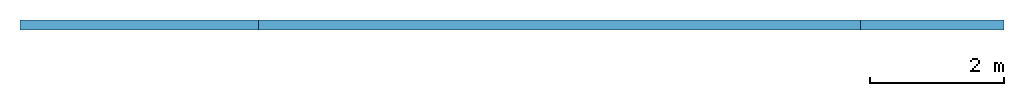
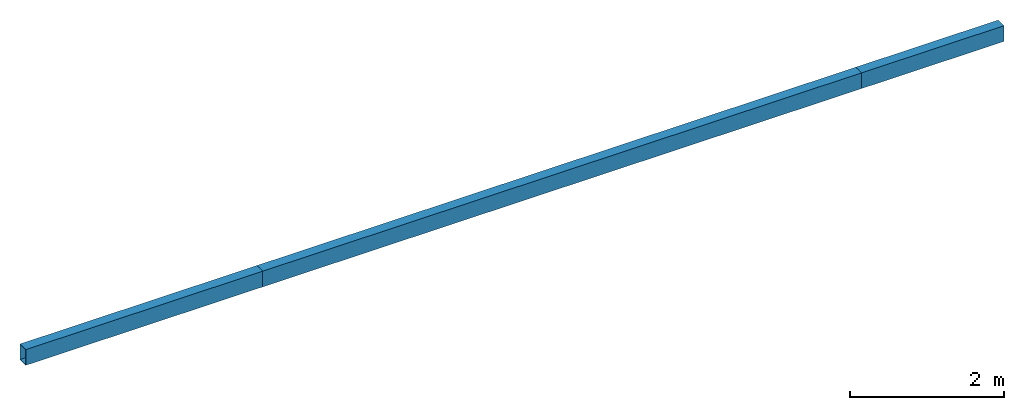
# One storey: 3 beams.
"""IFC2X3 building model written with IfcOpenShell, lengths in millimetres."""

import ifcopenshell
import ifcopenshell.guid

model = None  # the IFC model being written
_history = None  # IfcOwnerHistory: only IFC2X3 demands one
_inside = {}  # id of a spatial element -> (the spatial element, [elements in it])
_under = {}  # id of a project, library or spatial element -> (it, [spatial elements below it])
_declared = {}  # id of a project -> (the project, [libraries it declares])
_typed = {}  # id of a type object -> (the type object, [elements of that type])
_made_of = {}  # id of a material, layer set ... -> (it, [elements and type objects made of it])


def new_model(schema):
    """Start an empty IFC model of exactly this schema.

    Asked for "IFC4X3", IfcOpenShell would pick the latest addendum, in which some entities
    have other attributes; the version numbers below select the first issue.
    IFC2X3 requires an IfcOwnerHistory on every rooted entity: one is made here for all.
    """
    global model, _history
    if schema == "IFC4X3":
        model = ifcopenshell.file(schema_version=(4, 3, 0, 0))
    else:
        model = ifcopenshell.file(schema=schema)
    _inside.clear()
    _under.clear()
    _declared.clear()
    _typed.clear()
    _made_of.clear()
    _history = None
    if model.schema == "IFC2X3":
        org = make("IfcOrganization", Name="unknown")
        user = make(
            "IfcPersonAndOrganization",
            ThePerson=make("IfcPerson", FamilyName="unknown"),
            TheOrganization=org,
        )
        app = make(
            "IfcApplication",
            ApplicationDeveloper=org,
            Version="unknown",
            ApplicationFullName="unknown",
            ApplicationIdentifier="unknown",
        )
        _history = make(
            "IfcOwnerHistory",
            OwningUser=user,
            OwningApplication=app,
            ChangeAction="ADDED",
            CreationDate=0,
        )
    return model


def make(cls, **values):
    """One entity of the class cls with the attributes given. An attribute that is None is left unset."""
    return model.create_entity(
        cls, **{name: value for name, value in values.items() if value is not None}
    )


def entity(cls, *values):
    """Any entity or typed value of the class cls, its attributes in the order of the schema. None: left unset."""
    e = model.create_entity(cls)
    for i, value in enumerate(values):
        if value is not None:
            e[i] = value
    return e


def rooted(cls, **values):
    """An entity with a GlobalId (a new one), such as an element, a storey or a relation."""
    return make(cls, GlobalId=ifcopenshell.guid.new(), OwnerHistory=_history, **values)


def si_unit(unit_type, name, prefix=None):
    """IfcSIUnit, for example si_unit("LENGTHUNIT", "METRE", prefix="MILLI")."""
    return make("IfcSIUnit", UnitType=unit_type, Prefix=prefix, Name=name)


def converted_unit(unit_type, name, factor, base, dimensions=None, offset=None):
    """IfcConversionBasedUnit, such as the inch: factor (a typed value) times the base unit."""
    return make(
        "IfcConversionBasedUnit"
        if offset is None
        else "IfcConversionBasedUnitWithOffset",
        ConversionOffset=offset,
        Dimensions=None
        if dimensions is None
        else entity("IfcDimensionalExponents", *dimensions),
        UnitType=unit_type,
        Name=name,
        ConversionFactor=make(
            "IfcMeasureWithUnit", ValueComponent=factor, UnitComponent=base
        ),
    )


def derived_unit(unit_type, elements):
    """IfcDerivedUnit: a product of units, each with its exponent."""
    return make(
        "IfcDerivedUnit",
        Elements=[
            make("IfcDerivedUnitElement", Unit=unit, Exponent=power)
            for unit, power in elements
        ],
        UnitType=unit_type,
    )


def assignment(units):
    """IfcUnitAssignment: the units of a project."""
    return None if units is None else make("IfcUnitAssignment", Units=units)


def point(xyz):
    """IfcCartesianPoint."""
    return None if xyz is None else make("IfcCartesianPoint", Coordinates=xyz)


def direction(xyz):
    """IfcDirection."""
    return None if xyz is None else make("IfcDirection", DirectionRatios=xyz)


def frame(location, z_axis=None, x_axis=None):
    """IfcAxis2Placement3D, a coordinate frame: its origin and axes. An axis left out is left unset."""
    return make(
        "IfcAxis2Placement3D",
        Location=point(location),
        Axis=direction(z_axis),
        RefDirection=direction(x_axis),
    )


def origin_with_axes():
    """The frame at (0, 0, 0) with the z axis (0, 0, 1) and the x axis (1, 0, 0) written out."""
    return frame((0.0, 0.0, 0.0), z_axis=(0.0, 0.0, 1.0), x_axis=(1.0, 0.0, 0.0))


def place(relative_to, where):
    """IfcLocalPlacement: puts the frame where relative to a parent placement (None: the world)."""
    return make(
        "IfcLocalPlacement", PlacementRelTo=relative_to, RelativePlacement=where
    )


def context(
    kind, dimensions, precision=None, world=None, true_north=None, identifier=None
):
    """IfcGeometricRepresentationContext, for example the 3D "Model" context."""
    return make(
        "IfcGeometricRepresentationContext",
        ContextIdentifier=identifier,
        ContextType=kind,
        CoordinateSpaceDimension=dimensions,
        Precision=precision,
        WorldCoordinateSystem=world,
        TrueNorth=true_north,
    )


def subcontext(parent, identifier, kind, view, scale=None):
    """IfcGeometricRepresentationSubContext, for example "Body" below "Model"."""
    return make(
        "IfcGeometricRepresentationSubContext",
        ContextIdentifier=identifier,
        ContextType=kind,
        ParentContext=parent,
        TargetScale=scale,
        TargetView=view,
    )


def project(units=None, contexts=None):
    """IfcProject with its units and contexts."""
    return rooted(
        "IfcProject",
        Name="project",
        RepresentationContexts=contexts,
        UnitsInContext=assignment(units),
    )


def spatial(cls, under=None, at=None, **own):
    """A site, building, storey or space (cls), placed at a placement, below another one or the project."""
    s = rooted(cls, ObjectPlacement=at, **own)
    if under is not None:
        _under.setdefault(under.id(), (under, []))[1].append(s)
    return s


def faces_of(points, faces, orient=None, outer=None):
    """IfcFace entities. A face is a list of loops; a loop is a list of indices into points, from 0.

    orient and outer hold one flag for each loop. By default every Orientation is true, the
    first loop of a face is its IfcFaceOuterBound and the others are IfcFaceBound.
    """
    made = []
    for i, loops in enumerate(faces):
        bounds = []
        for j, loop in enumerate(loops):
            is_outer = j == 0 if outer is None else outer[i][j]
            bounds.append(
                make(
                    "IfcFaceOuterBound" if is_outer else "IfcFaceBound",
                    Bound=make("IfcPolyLoop", Polygon=[points[k] for k in loop]),
                    Orientation=True if orient is None else orient[i][j],
                )
            )
        made.append(make("IfcFace", Bounds=bounds))
    return made


def faceted_brep(points, faces, orient=None, outer=None, voids=None):
    """IfcFacetedBrep: a solid bounded by flat faces; with voids (closed shells), ...WithVoids."""
    shared = [point(p) for p in points]
    hull = make("IfcClosedShell", CfsFaces=faces_of(shared, faces, orient, outer))
    if voids is None:
        return make("IfcFacetedBrep", Outer=hull)
    return make(
        "IfcFacetedBrepWithVoids",
        Outer=hull,
        Voids=[
            make(cls, CfsFaces=faces_of(shared, fs, o, b)) for cls, fs, o, b in voids
        ],
    )


def shape(context_of_items, identifier, shape_type, items):
    """IfcShapeRepresentation: the items that make up one representation, for example the "Body"."""
    return make(
        "IfcShapeRepresentation",
        ContextOfItems=context_of_items,
        RepresentationIdentifier=identifier,
        RepresentationType=shape_type,
        Items=items,
    )


def material(Name=None, Category=None):
    """IfcMaterial."""
    return make("IfcMaterial", Name=Name, Category=Category)


def made_of(thing, what):
    """Note that an element or type object is made of a material, layer set ...; save() writes the relation."""
    if what is not None:
        _made_of.setdefault(what.id(), (what, []))[1].append(thing)
    return thing


def type_object(cls, material=None, **own):
    """A type object (cls), such as IfcWallType, which elements share."""
    return made_of(rooted(cls, **own), material)


def element(
    cls,
    number,
    at=None,
    inside=None,
    cuts=None,
    type_object=None,
    material=None,
    context=None,
    identifier="Body",
    shape_type=None,
    held_by="IfcProductDefinitionShape",
    body=None,
    shapes=None,
    **own,
):
    """One element of the class cls, such as IfcWall. Its Tag is "e" and its number.

    at: its placement. inside: the storey or other place that contains it. cuts: it is an
    opening in that element (IfcRelVoidsElement). A single representation is given by context,
    identifier, shape_type and body (its items); several are given by shapes. held_by: the class
    of the entity that holds the representations. save() writes the other relations.
    """
    e = rooted(cls, Tag="e%d" % number, ObjectPlacement=at, **own)
    if body is not None:
        shapes = [shape(context, identifier, shape_type, body)]
    if shapes is not None:
        e.Representation = make(held_by, Representations=shapes)
    if inside is not None:
        _inside.setdefault(inside.id(), (inside, []))[1].append(e)
    if cuts is not None:
        rooted(
            "IfcRelVoidsElement", RelatingBuildingElement=cuts, RelatedOpeningElement=e
        )
    if type_object is not None:
        _typed.setdefault(type_object.id(), (type_object, []))[1].append(e)
    return made_of(e, material)


def aggregate(whole, parts):
    """IfcRelAggregates: a whole, such as a stair, and the parts it consists of."""
    return rooted("IfcRelAggregates", RelatingObject=whole, RelatedObjects=parts)


def save(model, path):
    """Write the relations noted so far, then the file.

    IfcRelAggregates (storeys below a building ...), IfcRelContainedInSpatialStructure (elements
    in a storey), IfcRelDefinesByType, IfcRelAssociatesMaterial and IfcRelDeclares: one each for
    every whole, place, type object, material and project.
    """
    for whole, parts in _under.values():
        aggregate(whole, parts)
    for where, things in _inside.values():
        rooted(
            "IfcRelContainedInSpatialStructure",
            RelatedElements=things,
            RelatingStructure=where,
        )
    for kind, things in _typed.values():
        rooted("IfcRelDefinesByType", RelatedObjects=things, RelatingType=kind)
    for what, things in _made_of.values():
        rooted("IfcRelAssociatesMaterial", RelatedObjects=things, RelatingMaterial=what)
    for by, libraries in _declared.values():
        rooted("IfcRelDeclares", RelatingContext=by, RelatedDefinitions=libraries)
    model.write(path)


model = new_model("IFC2X3")

# Units and contexts
model_context = context("Model", 3, precision=0.01, world=frame((0.0, 4.29681676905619e-09, 0.0)), true_north=direction((4.01073788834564e-13, 1.0)))
plan_context = context("Plan", 3, precision=0.01, world=frame((0.0, 4.29681676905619e-09, 0.0)), true_north=direction((4.01073788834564e-13, 1.0)))
body_context = subcontext(model_context, "Body", "Model", "MODEL_VIEW")
ifc_project = project(units=[converted_unit("PLANEANGLEUNIT", "DEGREE", entity("IfcPositiveLengthMeasure", 0.0174532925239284), si_unit("PLANEANGLEUNIT", "RADIAN"), dimensions=[0, 0, 0, 0, 0, 0, 0]), si_unit("AREAUNIT", "SQUARE_METRE"), si_unit("LENGTHUNIT", "METRE", prefix="MILLI"), si_unit("MASSUNIT", "GRAM", prefix="KILO"), si_unit("POWERUNIT", "WATT"), si_unit("PRESSUREUNIT", "PASCAL", prefix="KILO"), si_unit("FORCEUNIT", "NEWTON", prefix="KILO"), si_unit("ELECTRICVOLTAGEUNIT", "VOLT"), si_unit("ELECTRICCURRENTUNIT", "AMPERE"), si_unit("THERMODYNAMICTEMPERATUREUNIT", "DEGREE_CELSIUS"), si_unit("TIMEUNIT", "SECOND"), si_unit("VOLUMEUNIT", "CUBIC_METRE"), derived_unit("LINEARVELOCITYUNIT", [(si_unit("LENGTHUNIT", "METRE"), 1), (si_unit("TIMEUNIT", "SECOND"), -1)]), derived_unit("VOLUMETRICFLOWRATEUNIT", [(si_unit("VOLUMEUNIT", "CUBIC_METRE"), 1), (si_unit("TIMEUNIT", "SECOND"), -1)]), derived_unit("THERMALTRANSMITTANCEUNIT", [(si_unit("POWERUNIT", "WATT"), 1), (si_unit("THERMODYNAMICTEMPERATUREUNIT", "KELVIN"), -1), (si_unit("AREAUNIT", "SQUARE_METRE"), -1)]), derived_unit("SOUNDPRESSUREUNIT", [(si_unit("PRESSUREUNIT", "PASCAL"), 1)])], contexts=[model_context, plan_context])

# Site, building, storey
site_placement = place(None, frame((0.0, -4.29681676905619e-09, 0.0), z_axis=(0.0, 0.0, 1.0), x_axis=(1.0, 0.0, 0.0)))
site = spatial("IfcSite", under=ifc_project, at=site_placement, Name="Gardermoen", CompositionType="ELEMENT")
building_placement = place(site_placement, frame((0.0, 4.29681676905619e-09, 0.0), z_axis=(0.0, 0.0, 1.0), x_axis=(1.0, 0.0, 0.0)))
building = spatial("IfcBuilding", under=site, at=building_placement, Name="TS", CompositionType="ELEMENT")
storey_placement = place(building_placement, origin_with_axes())
storey = spatial("IfcBuildingStorey", under=building, at=storey_placement, Name="G", CompositionType="ELEMENT", Elevation=0.0)

# Beams
ifc_material = material(Name="STEEL/S355")
beam_type = type_object("IfcBeamType", Name="RHS250*150*6.3", PredefinedType="NOTDEFINED")
beam_1_placement = place(storey_placement, frame((726999.998636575, 443064.550220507, 215269.997899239), z_axis=(0.0, 0.0, 1.0), x_axis=(-0.999999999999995, -9.99999902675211e-08, 0.0)))
element("IfcBeam", 1, at=beam_1_placement, inside=storey, type_object=beam_type, material=ifc_material, Name="STÅLBJELKE", ObjectType="RHS250*150*6.3", context=body_context, shape_type="Brep", body=[
    faceted_brep([(-6.98491930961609e-10, 68.6999998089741, -118.699999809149), (-6.98491930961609e-10, -68.6999998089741, -118.699999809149), (8999.9981315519, -68.6999998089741, -118.699999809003), (8999.9981315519, 68.6999998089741, -118.699999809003), (-9.31322574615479e-10, -68.69999981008, 118.699999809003), (8999.9981315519, -68.6999998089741, 118.699999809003), (8.73114913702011e-10, 68.6999998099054, 118.699999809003), (8999.9981315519, 68.6999998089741, 118.699999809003), (-6.98491930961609e-10, 75.0, -125.000000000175), (0.0, 75.0, 125.0), (8999.9981315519, 75.0, 125.0), (8999.9981315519, 75.0, -125.0), (0.0, -75.0, 125.0), (8999.9981315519, -75.0, 125.0), (-6.98491930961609e-10, -75.0, -125.000000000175), (8999.9981315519, -75.0, -125.0)], [[[0, 1, 2, 3]], [[1, 4, 5, 2]], [[4, 6, 7, 5]], [[6, 0, 3, 7]], [[8, 9, 10, 11]], [[9, 12, 13, 10]], [[12, 14, 15, 13]], [[14, 8, 11, 15]], [[13, 15, 11, 10], [5, 7, 3, 2]], [[14, 12, 9, 8], [6, 4, 1, 0]]]),
])
beam_2_placement = place(storey_placement, frame((717999.998636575, 443064.550220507, 215269.997899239), z_axis=(0.0, 0.0, 1.0), x_axis=(-0.999999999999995, -9.99999902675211e-08, 0.0)))
element("IfcBeam", 2, at=beam_2_placement, inside=storey, type_object=beam_type, Name="STÅLBJELKE", ObjectType="RHS250*150*6.3", context=body_context, shape_type="Brep", body=[
    faceted_brep([(3562.01115907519, 68.6999997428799, -118.699999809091), (3562.01115907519, -68.6999998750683, -118.699999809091), (-6.98491930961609e-10, -68.6999998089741, -118.699999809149), (-6.98491930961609e-10, 68.6999998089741, -118.699999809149), (3562.01112970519, -68.6999999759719, 118.699999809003), (-9.31322574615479e-10, -68.69999981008, 118.699999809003), (3562.01115907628, 68.6999997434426, 118.699999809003), (8.73114913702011e-10, 68.6999998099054, 118.699999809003), (3562.01114407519, 74.999999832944, -125.000000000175), (3562.01114407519, 74.999999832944, 125.0), (0.0, 75.0, 125.0), (-6.98491930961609e-10, 75.0, -125.000000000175), (3562.01115907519, -75.0000000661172, 125.0), (0.0, -75.0, 125.0), (3562.01112907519, -75.000000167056, -125.000000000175), (-6.98491930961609e-10, -75.0, -125.000000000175), (3562.01111407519, -75.0000000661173, -125.000000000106), (3562.01111407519, -75.0000000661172, 125.0), (3562.01111407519, 74.9999999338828, 125.0), (3562.01111407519, 74.9999999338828, -125.000000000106), (3562.01111407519, 68.6999997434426, 118.699999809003), (3562.01111407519, -68.6999998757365, 118.699999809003), (3562.01111407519, -68.6999998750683, -118.699999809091), (3562.01111407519, 68.6999997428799, -118.699999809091)], [[[0, 1, 2, 3]], [[1, 4, 5, 2]], [[4, 6, 7, 5]], [[6, 0, 3, 7]], [[8, 9, 10, 11]], [[9, 12, 13, 10]], [[12, 14, 15, 13]], [[14, 8, 11, 15]], [[11, 10, 13, 15], [3, 2, 5, 7]], [[16, 17, 18, 19], [20, 21, 22, 23]]], orient=[[False], [False], [False], [False], [False], [False], [False], [False], [False, False], [False, False]]),
])
beam_3_placement = place(storey_placement, frame((735999.998636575, 443064.550220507, 215269.997899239), z_axis=(0.0, 0.0, 1.0), x_axis=(-0.999999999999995, -9.99999902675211e-08, 0.0)))
element("IfcBeam", 3, at=beam_3_placement, inside=storey, type_object=beam_type, Name="STÅLBJELKE", ObjectType="RHS250*150*6.3", context=body_context, shape_type="Brep", body=[
    faceted_brep([(6857.40882760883, -68.6999999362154, -118.699999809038), (6857.40882761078, 68.6999996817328, -118.699999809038), (9000.00243424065, 68.6999996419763, -118.699999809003), (9000.00243423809, -68.6999999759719, -118.699999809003), (6857.40884324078, -68.6999999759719, 118.699999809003), (9000.00243423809, -68.6999999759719, 118.699999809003), (6857.40882761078, 68.6999996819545, 118.699999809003), (9000.00243424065, 68.6999996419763, 118.699999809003), (6857.40885761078, 74.999999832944, 125.0), (6857.40885761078, 74.999999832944, -125.000000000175), (9000.00243424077, 74.999999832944, -125.0), (9000.00243424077, 74.999999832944, 125.0), (6857.40882760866, -75.0000001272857, 125.0), (9000.00243423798, -75.000000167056, 125.0), (6857.40884261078, -75.000000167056, -125.000000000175), (9000.00243423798, -75.000000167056, -125.0), (6857.40887261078, -75.0000001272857, 125.0), (6857.40887261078, -75.0000001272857, -125.000000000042), (6857.40887261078, 74.9999998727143, -125.000000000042), (6857.40887261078, 74.9999998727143, 125.0), (6857.40887261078, -68.6999999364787, 118.699999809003), (6857.40887261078, 68.6999996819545, 118.699999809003), (6857.40887261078, 68.6999996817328, -118.699999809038), (6857.40887261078, -68.6999999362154, -118.699999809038)], [[[0, 1, 2, 3]], [[4, 0, 3, 5]], [[6, 4, 5, 7]], [[1, 6, 7, 2]], [[8, 9, 10, 11]], [[12, 8, 11, 13]], [[14, 12, 13, 15]], [[9, 14, 15, 10]], [[11, 10, 15, 13], [3, 2, 7, 5]], [[16, 17, 18, 19], [20, 21, 22, 23]]], orient=[[False], [False], [False], [False], [False], [False], [False], [False], [False, False], [False, False]]),
])

save(model, "model.ifc")
